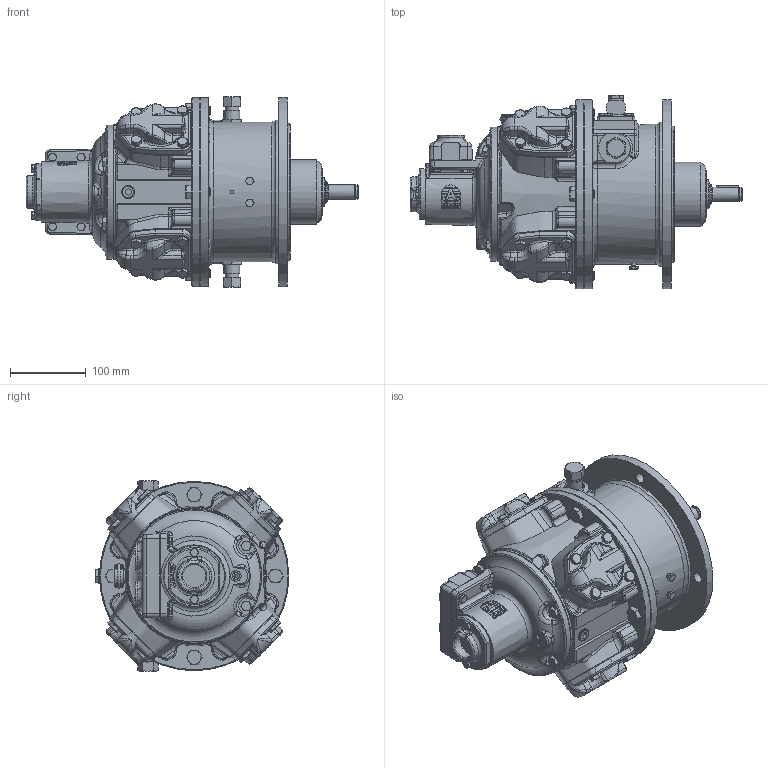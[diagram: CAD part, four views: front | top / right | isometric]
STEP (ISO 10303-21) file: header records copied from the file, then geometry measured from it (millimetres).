
FILE_DESCRIPTION (( 'STEP AP214' ), '1' );
FILE_NAME ('RM210+RM210 Brake Defeature + Logo.STEP', '2023-06-14T08:13:56', ( '' ), ( '' ), 'SwSTEP 2.0', 'SolidWorks 2022', '' );
FILE_SCHEMA (( 'AUTOMOTIVE_DESIGN' ));
Length unit declared in the file: millimetre
Products named in the file (1): RM210+RM210 Brake Defeature + Logo
Bounding box: 438.94 x 255.92 x 251.46 mm (x, y, z)
Volume: 9824144 mm3; surface area: 421628.9 mm2
Topology: 1 solids, 16 shells, 2832 faces, 6919 edges, 4165 vertices
Faces by surface type: plane 1195, bspline 561, cone 458, cylinder 422, torus 186, sphere 10
Full cylindrical faces by diameter (mm): 1.9 x2, 5 x1, 6 x2, 6.8 x1, 8 x1, 9.728 x1, 10 x14, 11.9 x4, 12 x8, 13 x16, 13.157 x1, 14 x9, 16 x8, 16.9 x1, 17 x8, 17.78 x2, 18 x4, 19 x1, 20.57 x2, 20.955 x2, 24.5 x2, 27 x1, 30.5 x1, 38.1 x1, 62 x1, 85 x1, 177.8 x1, 179.97 x1, 180 x2, 185 x1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
Entity records: 154771 total; most frequent: CARTESIAN_POINT 64101, ORIENTED_EDGE 13162, DIRECTION 10950, EDGE_CURVE 6581, AXIS2_PLACEMENT_3D 4307, VERTEX_POINT 4073, EDGE_LOOP 3144, FACE_OUTER_BOUND 2951
